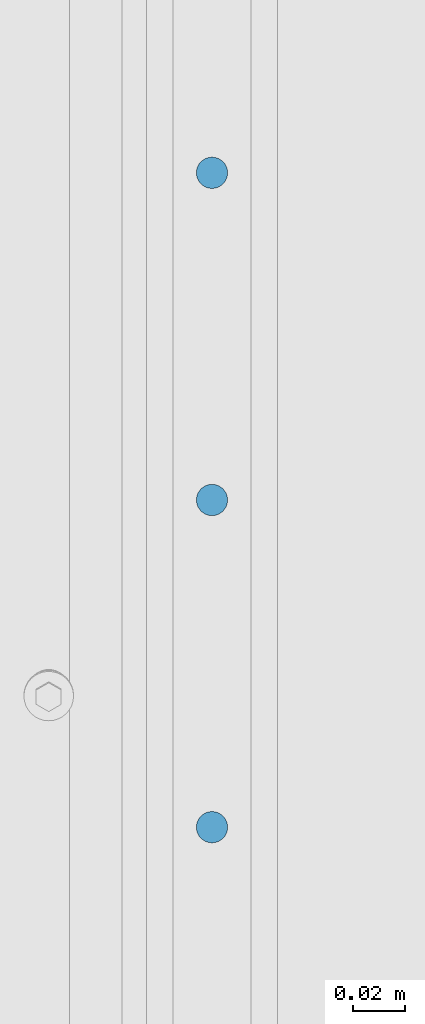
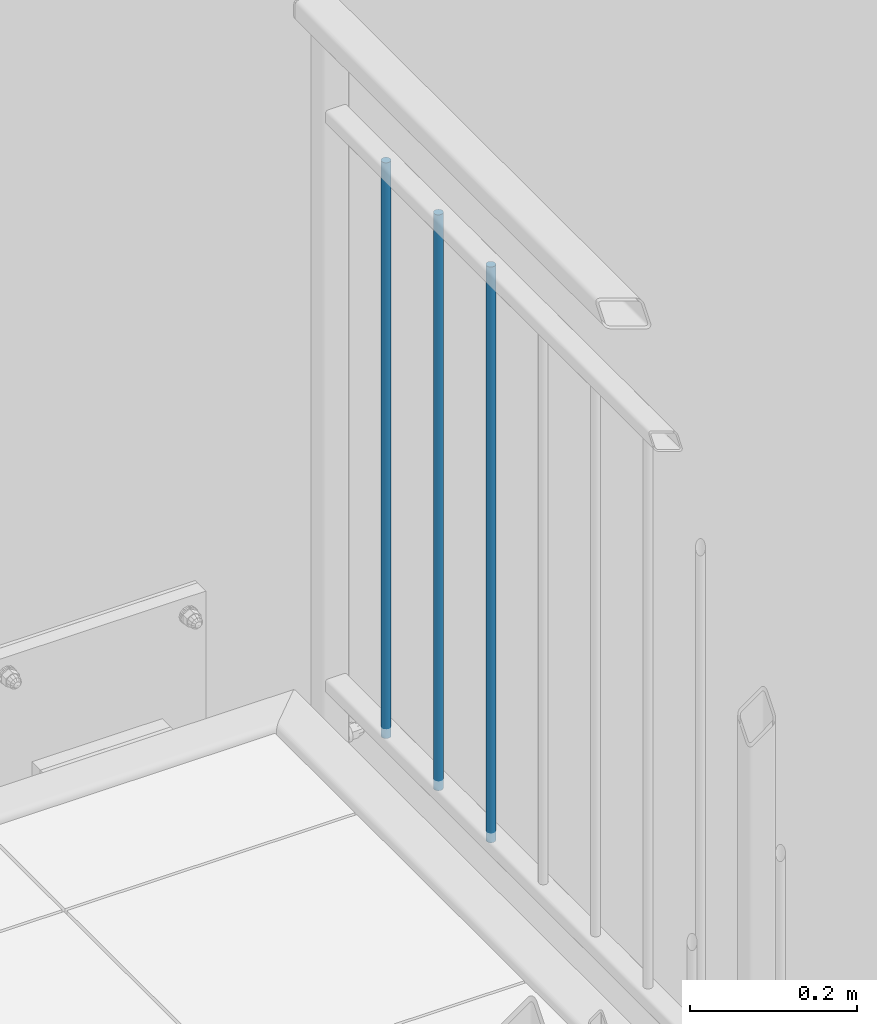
# One storey, part 32 of 162: 3 columns.
"""IFC2X3 building model written with IfcOpenShell, lengths in millimetres."""

import ifcopenshell
import ifcopenshell.guid

model = None  # the IFC model being written
_history = None  # IfcOwnerHistory: only IFC2X3 demands one
_inside = {}  # id of a spatial element -> (the spatial element, [elements in it])
_under = {}  # id of a project, library or spatial element -> (it, [spatial elements below it])
_declared = {}  # id of a project -> (the project, [libraries it declares])
_typed = {}  # id of a type object -> (the type object, [elements of that type])
_made_of = {}  # id of a material, layer set ... -> (it, [elements and type objects made of it])


def new_model(schema):
    """Start an empty IFC model of exactly this schema.

    Asked for "IFC4X3", IfcOpenShell would pick the latest addendum, in which some entities
    have other attributes; the version numbers below select the first issue.
    IFC2X3 requires an IfcOwnerHistory on every rooted entity: one is made here for all.
    """
    global model, _history
    if schema == "IFC4X3":
        model = ifcopenshell.file(schema_version=(4, 3, 0, 0))
    else:
        model = ifcopenshell.file(schema=schema)
    _inside.clear()
    _under.clear()
    _declared.clear()
    _typed.clear()
    _made_of.clear()
    _history = None
    if model.schema == "IFC2X3":
        org = make("IfcOrganization", Name="unknown")
        user = make(
            "IfcPersonAndOrganization",
            ThePerson=make("IfcPerson", FamilyName="unknown"),
            TheOrganization=org,
        )
        app = make(
            "IfcApplication",
            ApplicationDeveloper=org,
            Version="unknown",
            ApplicationFullName="unknown",
            ApplicationIdentifier="unknown",
        )
        _history = make(
            "IfcOwnerHistory",
            OwningUser=user,
            OwningApplication=app,
            ChangeAction="ADDED",
            CreationDate=0,
        )
    return model


def make(cls, **values):
    """One entity of the class cls with the attributes given. An attribute that is None is left unset."""
    return model.create_entity(
        cls, **{name: value for name, value in values.items() if value is not None}
    )


def entity(cls, *values):
    """Any entity or typed value of the class cls, its attributes in the order of the schema. None: left unset."""
    e = model.create_entity(cls)
    for i, value in enumerate(values):
        if value is not None:
            e[i] = value
    return e


def rooted(cls, **values):
    """An entity with a GlobalId (a new one), such as an element, a storey or a relation."""
    return make(cls, GlobalId=ifcopenshell.guid.new(), OwnerHistory=_history, **values)


def si_unit(unit_type, name, prefix=None):
    """IfcSIUnit, for example si_unit("LENGTHUNIT", "METRE", prefix="MILLI")."""
    return make("IfcSIUnit", UnitType=unit_type, Prefix=prefix, Name=name)


def converted_unit(unit_type, name, factor, base, dimensions=None, offset=None):
    """IfcConversionBasedUnit, such as the inch: factor (a typed value) times the base unit."""
    return make(
        "IfcConversionBasedUnit"
        if offset is None
        else "IfcConversionBasedUnitWithOffset",
        ConversionOffset=offset,
        Dimensions=None
        if dimensions is None
        else entity("IfcDimensionalExponents", *dimensions),
        UnitType=unit_type,
        Name=name,
        ConversionFactor=make(
            "IfcMeasureWithUnit", ValueComponent=factor, UnitComponent=base
        ),
    )


def assignment(units):
    """IfcUnitAssignment: the units of a project."""
    return None if units is None else make("IfcUnitAssignment", Units=units)


def point(xyz):
    """IfcCartesianPoint."""
    return None if xyz is None else make("IfcCartesianPoint", Coordinates=xyz)


def direction(xyz):
    """IfcDirection."""
    return None if xyz is None else make("IfcDirection", DirectionRatios=xyz)


def frame(location, z_axis=None, x_axis=None):
    """IfcAxis2Placement3D, a coordinate frame: its origin and axes. An axis left out is left unset."""
    return make(
        "IfcAxis2Placement3D",
        Location=point(location),
        Axis=direction(z_axis),
        RefDirection=direction(x_axis),
    )


def frame_2d(location, x_axis=None):
    """IfcAxis2Placement2D, a coordinate frame in the plane: its origin and x axis."""
    return make(
        "IfcAxis2Placement2D", Location=point(location), RefDirection=direction(x_axis)
    )


def origin():
    """The frame at (0, 0, 0) with its axes left unset."""
    return frame((0.0, 0.0, 0.0))


def origin_with_axes():
    """The frame at (0, 0, 0) with the z axis (0, 0, 1) and the x axis (1, 0, 0) written out."""
    return frame((0.0, 0.0, 0.0), z_axis=(0.0, 0.0, 1.0), x_axis=(1.0, 0.0, 0.0))


def origin_2d():
    """The frame at (0, 0) in the plane with its x axis left unset."""
    return frame_2d((0.0, 0.0))


def place(relative_to, where):
    """IfcLocalPlacement: puts the frame where relative to a parent placement (None: the world)."""
    return make(
        "IfcLocalPlacement", PlacementRelTo=relative_to, RelativePlacement=where
    )


def context(
    kind, dimensions, precision=None, world=None, true_north=None, identifier=None
):
    """IfcGeometricRepresentationContext, for example the 3D "Model" context."""
    return make(
        "IfcGeometricRepresentationContext",
        ContextIdentifier=identifier,
        ContextType=kind,
        CoordinateSpaceDimension=dimensions,
        Precision=precision,
        WorldCoordinateSystem=world,
        TrueNorth=true_north,
    )


def project(units=None, contexts=None):
    """IfcProject with its units and contexts."""
    return rooted(
        "IfcProject",
        Name="project",
        RepresentationContexts=contexts,
        UnitsInContext=assignment(units),
    )


def spatial(cls, under=None, at=None, **own):
    """A site, building, storey or space (cls), placed at a placement, below another one or the project."""
    s = rooted(cls, ObjectPlacement=at, **own)
    if under is not None:
        _under.setdefault(under.id(), (under, []))[1].append(s)
    return s


def profile(cls, at=None, kind="AREA", **sizes):
    """A parametric profile (cls). Its sizes go by their IFC names, for example OverallWidth=200.0."""
    return make(cls, ProfileType=kind, Position=at, **sizes)


def circle(**sizes):
    """IfcCircleProfileDef."""
    return profile("IfcCircleProfileDef", **sizes)


def extrude(swept, where, along, depth):
    """IfcExtrudedAreaSolid: the profile swept, set in the frame where, extruded along a direction by depth."""
    return make(
        "IfcExtrudedAreaSolid",
        SweptArea=swept,
        Position=where,
        ExtrudedDirection=direction(along),
        Depth=depth,
    )


def shape(context_of_items, identifier, shape_type, items):
    """IfcShapeRepresentation: the items that make up one representation, for example the "Body"."""
    return make(
        "IfcShapeRepresentation",
        ContextOfItems=context_of_items,
        RepresentationIdentifier=identifier,
        RepresentationType=shape_type,
        Items=items,
    )


def material(Name=None, Category=None):
    """IfcMaterial."""
    return make("IfcMaterial", Name=Name, Category=Category)


def made_of(thing, what):
    """Note that an element or type object is made of a material, layer set ...; save() writes the relation."""
    if what is not None:
        _made_of.setdefault(what.id(), (what, []))[1].append(thing)
    return thing


def element(
    cls,
    number,
    at=None,
    inside=None,
    cuts=None,
    type_object=None,
    material=None,
    context=None,
    identifier="Body",
    shape_type=None,
    held_by="IfcProductDefinitionShape",
    body=None,
    shapes=None,
    **own,
):
    """One element of the class cls, such as IfcWall. Its Tag is "e" and its number.

    at: its placement. inside: the storey or other place that contains it. cuts: it is an
    opening in that element (IfcRelVoidsElement). A single representation is given by context,
    identifier, shape_type and body (its items); several are given by shapes. held_by: the class
    of the entity that holds the representations. save() writes the other relations.
    """
    e = rooted(cls, Tag="e%d" % number, ObjectPlacement=at, **own)
    if body is not None:
        shapes = [shape(context, identifier, shape_type, body)]
    if shapes is not None:
        e.Representation = make(held_by, Representations=shapes)
    if inside is not None:
        _inside.setdefault(inside.id(), (inside, []))[1].append(e)
    if cuts is not None:
        rooted(
            "IfcRelVoidsElement", RelatingBuildingElement=cuts, RelatedOpeningElement=e
        )
    if type_object is not None:
        _typed.setdefault(type_object.id(), (type_object, []))[1].append(e)
    return made_of(e, material)


def aggregate(whole, parts):
    """IfcRelAggregates: a whole, such as a stair, and the parts it consists of."""
    return rooted("IfcRelAggregates", RelatingObject=whole, RelatedObjects=parts)


def save(model, path):
    """Write the relations noted so far, then the file.

    IfcRelAggregates (storeys below a building ...), IfcRelContainedInSpatialStructure (elements
    in a storey), IfcRelDefinesByType, IfcRelAssociatesMaterial and IfcRelDeclares: one each for
    every whole, place, type object, material and project.
    """
    for whole, parts in _under.values():
        aggregate(whole, parts)
    for where, things in _inside.values():
        rooted(
            "IfcRelContainedInSpatialStructure",
            RelatedElements=things,
            RelatingStructure=where,
        )
    for kind, things in _typed.values():
        rooted("IfcRelDefinesByType", RelatedObjects=things, RelatingType=kind)
    for what, things in _made_of.values():
        rooted("IfcRelAssociatesMaterial", RelatedObjects=things, RelatingMaterial=what)
    for by, libraries in _declared.values():
        rooted("IfcRelDeclares", RelatingContext=by, RelatedDefinitions=libraries)
    model.write(path)


model = new_model("IFC2X3")

# Units and contexts
model_context = context("Model", 3, precision=1e-09, world=origin_with_axes())
ifc_project = project(units=[si_unit("LENGTHUNIT", "METRE", prefix="MILLI"), si_unit("AREAUNIT", "SQUARE_METRE"), si_unit("VOLUMEUNIT", "CUBIC_METRE"), converted_unit("PLANEANGLEUNIT", "DEGREE", entity("IfcPlaneAngleMeasure", 0.01745329), si_unit("PLANEANGLEUNIT", "RADIAN"), dimensions=[0, 0, 0, 0, 0, 0, 0])], contexts=[model_context])

# Site, building, storey
site_placement = place(None, origin_with_axes())
site = spatial("IfcSite", under=ifc_project, at=site_placement, Name="Hermannstra?e 1a, 60318 Frankfurt", CompositionType="ELEMENT")
building_placement = place(site_placement, origin_with_axes())
building = spatial("IfcBuilding", under=site, at=building_placement, Name="Struktur 1", CompositionType="ELEMENT")
storey_placement = place(building_placement, origin_with_axes())
storey = spatial("IfcBuildingStorey", under=building, at=storey_placement, Name="Default Storey", CompositionType="ELEMENT", Elevation=0.0)

# Columns
ifc_material = material(Name="S235JR")
for number, where, z_axis, x_axis in (
    (1, (5848.30936482, 2496.359373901, 7805.0), (0.0, 0.0, -1.0), (0.0, -1.0, 0.0)),
    (2, (5848.30936482, 2371.109373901, 7805.0), (0.0, 0.0, -1.0), (0.0, -1.0, 0.0)),
    (3, (5848.30936482, 2245.859373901, 7805.0), (0.0, 0.0, -1.0), (0.0, -1.0, 0.0)),
):
    element("IfcColumn", number, at=place(None, frame(where, z_axis=z_axis, x_axis=x_axis)), inside=storey, material=ifc_material, Name="-", ObjectType="-", context=model_context, shape_type="SweptSolid", body=[
        extrude(circle(Radius=6.0, at=origin_2d()), origin(), (0.0, 0.0, -1.0), 840.0),
    ])

save(model, "model.ifc")
